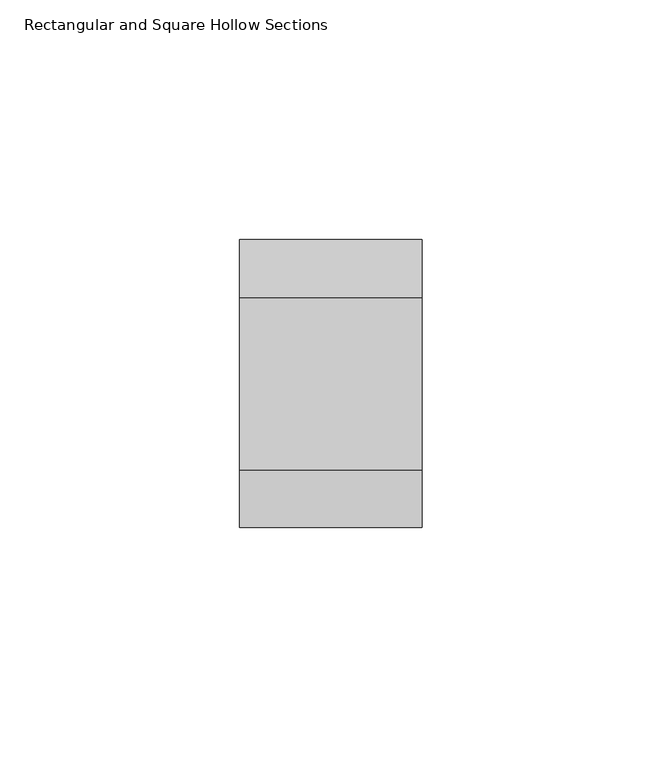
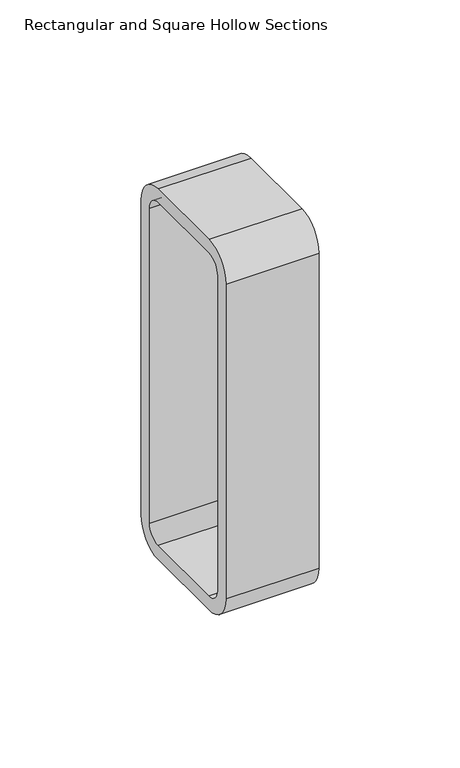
"""IFC4 building model written with IfcOpenShell, lengths in millimetres: beam geometry, Rectangular and Square Hollow Sections : TREC160x60x6."""

from ifc_helpers import new_model, si_unit, point, frame, frame_2d, origin, place, context, project, spatial, polyline, circle_curve, trimmed, segment, composite_curve, outline, extrude, source, transform, mapped, element, save


def rectangular_and_square_hollow_sections_d32af7ef(model_context):
    return source(origin(), model_context, "Body", "SweptSolid", [
        extrude(outline(composite_curve([segment(polyline([(30.0, 68.0), (30.0, -68.0)]), True, "CONTINUOUS"), segment(trimmed(circle_curve(frame_2d((18.0, -68.0)), 12.0), [point((30.0, -68.0))], [point((18.0, -80.0))], False, "CARTESIAN"), True, "CONTINUOUS"), segment(polyline([(18.0, -80.0), (-18.0, -80.0)]), True, "CONTINUOUS"), segment(trimmed(circle_curve(frame_2d((-18.0, -68.0)), 12.0), [point((-18.0, -80.0))], [point((-30.0, -68.0))], False, "CARTESIAN"), True, "CONTINUOUS"), segment(polyline([(-30.0, -68.0), (-30.0, 68.0)]), True, "CONTINUOUS"), segment(trimmed(circle_curve(frame_2d((-18.0, 68.0)), 12.0), [point((-30.0, 68.0))], [point((-18.0, 80.0))], False, "CARTESIAN"), True, "CONTINUOUS"), segment(polyline([(-18.0, 80.0), (18.0, 80.0)]), True, "CONTINUOUS"), segment(trimmed(circle_curve(frame_2d((18.0, 68.0)), 12.0), [point((18.0, 80.0))], [point((30.0, 68.0))], False, "CARTESIAN"), True, "CONTINUOUS")], self_intersect=False), holes=[composite_curve([segment(trimmed(circle_curve(frame_2d((-18.0, 68.0)), 6.0), [point((-18.0, 74.0))], [point((-24.0, 68.0))], True, "CARTESIAN"), True, "CONTINUOUS"), segment(polyline([(-24.0, 68.0), (-24.0, -68.0)]), True, "CONTINUOUS"), segment(trimmed(circle_curve(frame_2d((-18.0, -68.0)), 6.0), [point((-24.0, -68.0))], [point((-18.0, -74.0))], True, "CARTESIAN"), True, "CONTINUOUS"), segment(polyline([(-18.0, -74.0), (18.0, -74.0)]), True, "CONTINUOUS"), segment(trimmed(circle_curve(frame_2d((18.0, -68.0)), 6.0), [point((18.0, -74.0))], [point((24.0, -68.0))], True, "CARTESIAN"), True, "CONTINUOUS"), segment(polyline([(24.0, -68.0), (24.0, 68.0)]), True, "CONTINUOUS"), segment(trimmed(circle_curve(frame_2d((18.0, 68.0)), 6.0), [point((24.0, 68.0))], [point((18.0, 74.0))], True, "CARTESIAN"), True, "CONTINUOUS"), segment(polyline([(18.0, 74.0), (-18.0, 74.0)]), True, "CONTINUOUS")], self_intersect=False)]), frame((-138.5, 0.0, 0.0), z_axis=(1.0, 0.0, 0.0), x_axis=(0.0, 1.0, 0.0)), (0.0, 0.0, 1.0), 38.0),
    ])


if __name__ == "__main__":
    model = new_model("IFC4")
    model_context = context("Model", 3, world=origin())
    ifc_project = project(units=[si_unit("LENGTHUNIT", "METRE", prefix="MILLI")], contexts=[model_context])
    site = spatial("IfcSite", under=ifc_project)
    building = spatial("IfcBuilding", under=site)
    placement = place(None, origin())
    rectangular_and_square_hollow_sections_shape = rectangular_and_square_hollow_sections_d32af7ef(model_context)
    element("IfcBeam", 1, ObjectType="Rectangular and Square Hollow Sections : TREC160x60x6", at=placement, inside=building, context=model_context, shape_type="MappedRepresentation", body=[
        mapped(rectangular_and_square_hollow_sections_shape, transform((0.0, 0.0, 0.0), x_axis=(1.0, 0.0, 0.0), y_axis=(0.0, 1.0, 0.0), z_axis=(0.0, 0.0, 1.0))),
    ])
    save(model, "model.ifc")
